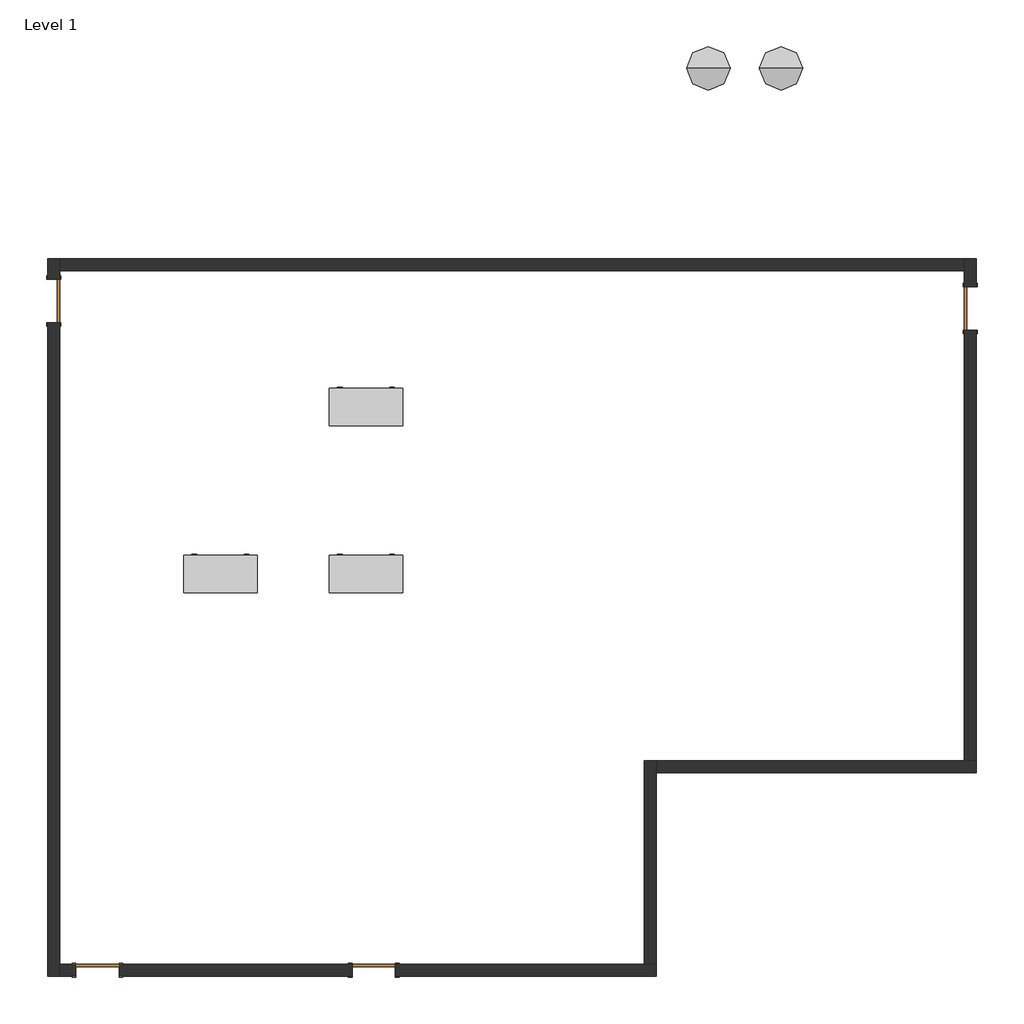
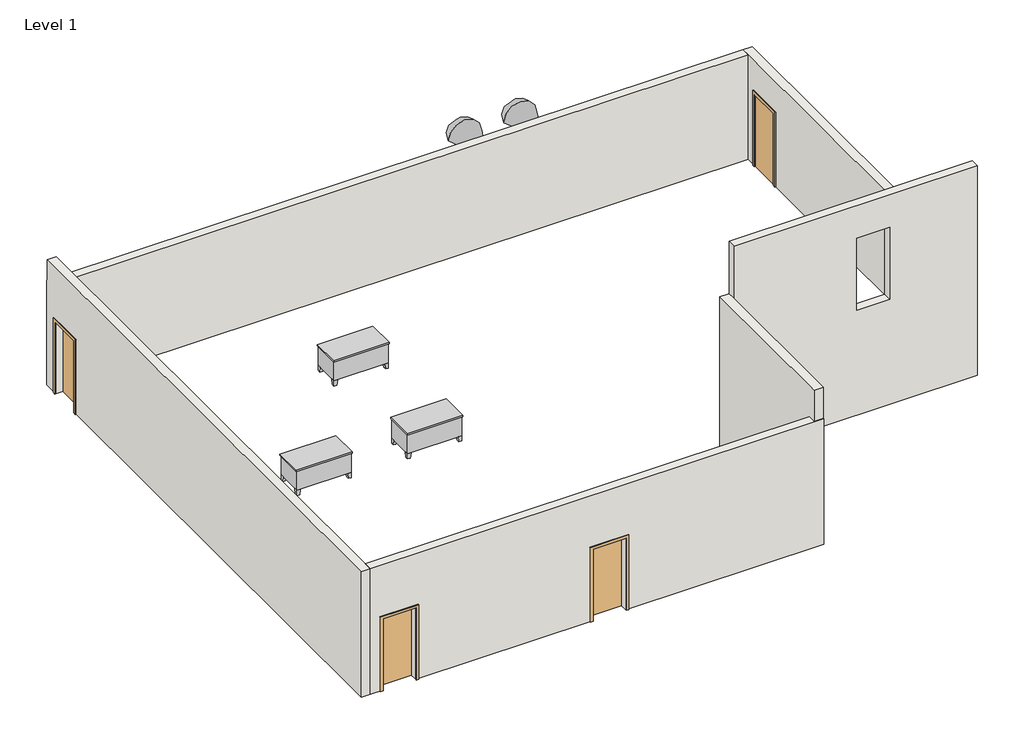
# One storey: 6 walls, 4 doors, 3 furniture elements, 2 geographic elements.
"""IFC4 building model written with IfcOpenShell, lengths in millimetres."""

from ifc_helpers import new_model, si_unit, origin, place, context, project, spatial, faceted_brep, transform, mapped, element, save
from components import single_flush_910_x_2100_9d723dec, single_flush_910_x_2100_d28cb9d3, desk_1500_x_750_4c5f3064, geographic_element_e8c3bac9

model = new_model("IFC4")

# Units and contexts
model_context = context("Model", 3, world=origin())
ifc_project = project(units=[si_unit("LENGTHUNIT", "METRE", prefix="MILLI")], contexts=[model_context])

# Site, building, storey
site = spatial("IfcSite", under=ifc_project)
building = spatial("IfcBuilding", under=site)
storey = spatial("IfcBuildingStorey", under=building, Name="Level 1", Elevation=0.0)

# Doors
placement = place(None, origin())
single_flush_910_x_2100_shape = single_flush_910_x_2100_9d723dec(model_context)
element("IfcDoor", 1, ObjectType="Single-Flush : 910 x 2100", at=placement, inside=storey, context=model_context, shape_type="MappedRepresentation", body=[
    mapped(single_flush_910_x_2100_shape, transform((-7073.9019194, -6001.280369, 0.0), x_axis=(1.0, 0.0, 0.0), y_axis=(0.0, 1.0, 0.0), z_axis=(0.0, 0.0, 1.0))),
])
element("IfcDoor", 2, ObjectType="Single-Flush : 910 x 2100", at=placement, inside=storey, context=model_context, shape_type="MappedRepresentation", body=[
    mapped(single_flush_910_x_2100_shape, transform((-13779.5019194, 8019.519631, 0.0), x_axis=(0.0, -1.0, 0.0), y_axis=(1.0, 0.0, 0.0), z_axis=(0.0, 0.0, 1.0))),
])
element("IfcDoor", 3, ObjectType="Single-Flush : 910 x 2100", at=placement, inside=storey, context=model_context, shape_type="MappedRepresentation", body=[
    mapped(single_flush_910_x_2100_shape, transform((-12865.1019194, -6001.280369, 0.0), x_axis=(1.0, 0.0, 0.0), y_axis=(0.0, 1.0, 0.0), z_axis=(0.0, 0.0, 1.0))),
])
single_flush_910_x_2100_2_shape = single_flush_910_x_2100_d28cb9d3(model_context)
element("IfcDoor", 4, ObjectType="Single-Flush : 910 x 2100", at=placement, inside=storey, context=model_context, shape_type="MappedRepresentation", body=[
    mapped(single_flush_910_x_2100_2_shape, transform((5422.8980806, 7867.119631, 0.0), x_axis=(0.0, -1.0, 0.0), y_axis=(1.0, 0.0, 0.0), z_axis=(0.0, 0.0, 1.0))),
])

# Furniture
desk_1500_x_750_shape = desk_1500_x_750_4c5f3064(model_context)
element("IfcFurniture", 5, ObjectType="Desk : 1500 x 750", at=placement, inside=storey, context=model_context, shape_type="MappedRepresentation", body=[
    mapped(desk_1500_x_750_shape, transform((-11036.3019194, 1923.519631, 0.0), x_axis=(1.0, 0.0, 0.0), y_axis=(0.0, 1.0, 0.0), z_axis=(0.0, 0.0, 1.0))),
])
element("IfcFurniture", 6, ObjectType="Desk : 1500 x 750", at=placement, inside=storey, context=model_context, shape_type="MappedRepresentation", body=[
    mapped(desk_1500_x_750_shape, transform((-7988.3019194, 5428.719631, 0.0), x_axis=(1.0, 0.0, 0.0), y_axis=(0.0, 1.0, 0.0), z_axis=(0.0, 0.0, 1.0))),
])
element("IfcFurniture", 7, ObjectType="Desk : 1500 x 750", at=placement, inside=storey, context=model_context, shape_type="MappedRepresentation", body=[
    mapped(desk_1500_x_750_shape, transform((-7988.3019194, 1923.519631, 0.0), x_axis=(1.0, 0.0, 0.0), y_axis=(0.0, 1.0, 0.0), z_axis=(0.0, 0.0, 1.0))),
])

# Geographic elements
geographic_element_shape = geographic_element_e8c3bac9(model_context)
element("IfcGeographicElement", 8, ObjectType="Shubbery : Shubbery", at=placement, inside=storey, context=model_context, shape_type="MappedRepresentation", body=[
    mapped(geographic_element_shape, transform((1460.4980806, 12896.319631, 0.0), x_axis=(1.0, 0.0, 0.0), y_axis=(0.0, 1.0, 0.0), z_axis=(0.0, 0.0, 1.0))),
])
element("IfcGeographicElement", 9, ObjectType="Shubbery : Shubbery", at=placement, inside=storey, context=model_context, shape_type="MappedRepresentation", body=[
    mapped(geographic_element_shape, transform((-63.5019194, 12896.319631, 0.0), x_axis=(1.0, 0.0, 0.0), y_axis=(0.0, 1.0, 0.0), z_axis=(0.0, 0.0, 1.0))),
])

# Walls
element("IfcWall", 10, ObjectType="Generic - 250mm", at=placement, inside=storey, context=model_context, shape_type="Brep", body=[
    faceted_brep([(-13654.5019194, -6126.280369, 0.0), (-13654.5019194, -5876.280369, 0.0), (-13654.5019194, 7564.519631, 0.0), (-13654.5019194, 7564.519631, 2100.0), (-13654.5019194, 8474.519631, 2100.0), (-13654.5019194, 8474.519631, 0.0), (-13654.5019194, 8656.519631, 0.0), (-13654.5019194, 8906.519631, 0.0), (-13654.5019194, 8906.519631, 3048.0), (-13654.5019194, 8883.119631, 3048.0), (-13654.5019194, 8883.119631, 3657.6), (-13654.5019194, -5876.280369, 3657.6), (-13654.5019194, -6126.280369, 3657.6), (-13904.5019194, 7564.519631, 2100.0), (-13904.5019194, 7564.519631, 0.0), (-13904.5019194, -6126.280369, 0.0), (-13904.5019194, -6126.280369, 3657.6), (-13904.5019194, 8883.119631, 3657.6), (-13904.5019194, 8883.119631, 3048.0), (-13904.5019194, 8906.519631, 3048.0), (-13904.5019194, 8906.519631, 0.0), (-13904.5019194, 8474.519631, 0.0), (-13904.5019194, 8474.519631, 2100.0)], [[[0, 1, 2, 3, 4, 5, 6, 7, 8, 9, 10, 11, 12]], [[13, 14, 15, 16, 17, 18, 19, 20, 21, 22]], [[21, 20, 7, 6, 5]], [[15, 14, 2, 1, 0]], [[12, 11, 10, 17, 16]], [[0, 12, 16, 15]], [[18, 9, 8, 19]], [[8, 7, 20, 19]], [[10, 9, 18, 17]], [[3, 2, 14, 13]], [[4, 3, 13, 22]], [[5, 4, 22, 21]]]),
])
element("IfcWall", 11, ObjectType="Generic - 250mm", at=placement, inside=storey, context=model_context, shape_type="Brep", body=[
    faceted_brep([(-13654.5019194, 8656.519631, 0.0), (5297.8980806, 8656.519631, 0.0), (5297.8980806, 8656.519631, 3048.0), (-13654.5019194, 8656.519631, 3048.0), (-13654.5019194, 8906.519631, 0.0), (-13654.5019194, 8906.519631, 3048.0), (5297.8980806, 8906.519631, 3048.0), (5297.8980806, 8906.519631, 0.0), (-13654.5019194, 8883.119631, 3048.0), (-13654.5019194, 8679.919631, 3048.0)], [[[0, 1, 2, 3]], [[4, 5, 6, 7]], [[1, 0, 4, 7]], [[3, 2, 6, 5, 8, 9]], [[0, 3, 9, 8, 5, 4]], [[2, 1, 7, 6]]]),
])
element("IfcWall", 12, ObjectType="Generic - 250mm", at=placement, inside=storey, context=model_context, shape_type="Brep", body=[
    faceted_brep([(-12410.1019194, -6126.280369, 2100.0), (-12410.1019194, -6126.280369, 0.0), (-7528.9019194, -6126.280369, 0.0), (-7528.9019194, -6126.280369, 2100.0), (-6618.9019194, -6126.280369, 2100.0), (-6618.9019194, -6126.280369, 0.0), (-1157.7019194, -6126.280369, 0.0), (-1157.7019194, -6126.280369, 3657.6), (-13654.5019194, -6126.280369, 3657.6), (-13654.5019194, -6126.280369, 0.0), (-13320.1019194, -6126.280369, 0.0), (-13320.1019194, -6126.280369, 2100.0), (-7528.9019194, -5876.280369, 0.0), (-12410.1019194, -5876.280369, 0.0), (-12410.1019194, -5876.280369, 2100.0), (-13320.1019194, -5876.280369, 2100.0), (-13320.1019194, -5876.280369, 0.0), (-13654.5019194, -5876.280369, 0.0), (-13654.5019194, -5876.280369, 3657.6), (-1407.7019194, -5876.280369, 3657.6), (-1157.7019194, -5876.280369, 3657.6), (-1157.7019194, -5876.280369, 0.0), (-1407.7019194, -5876.280369, 0.0), (-6618.9019194, -5876.280369, 0.0), (-6618.9019194, -5876.280369, 2100.0), (-7528.9019194, -5876.280369, 2100.0), (-1157.7019194, -6102.880369, 3657.6)], [[[0, 1, 2, 3, 4, 5, 6, 7, 8, 9, 10, 11]], [[12, 13, 14, 15, 16, 17, 18, 19, 20, 21, 22, 23, 24, 25]], [[6, 5, 23, 22, 21]], [[10, 9, 17, 16]], [[2, 1, 13, 12]], [[8, 7, 26, 20, 19, 18]], [[9, 8, 18, 17]], [[7, 6, 21, 20, 26]], [[24, 23, 5, 4]], [[25, 24, 4, 3]], [[12, 25, 3, 2]], [[14, 13, 1, 0]], [[15, 14, 0, 11]], [[16, 15, 11, 10]]]),
])
element("IfcWall", 13, ObjectType="Generic - 250mm", at=placement, inside=storey, context=model_context, shape_type="Brep", body=[
    faceted_brep([(-1157.7019194, -5876.280369, 0.0), (-1157.7019194, -1859.080369, 0.0), (-1157.7019194, -1609.080369, 0.0), (-1157.7019194, -1609.080369, 4572.0), (-1157.7019194, -6102.880369, 4572.0), (-1157.7019194, -6102.880369, 3657.6), (-1157.7019194, -5876.280369, 3657.6), (-1407.7019194, -5876.280369, 0.0), (-1407.7019194, -5876.280369, 3657.6), (-1407.7019194, -5899.680369, 3657.6), (-1407.7019194, -6102.880369, 3657.6), (-1407.7019194, -6102.880369, 4572.0), (-1407.7019194, -1609.080369, 4572.0), (-1407.7019194, -1609.080369, 0.0)], [[[0, 1, 2, 3, 4, 5, 6]], [[7, 8, 9, 10, 11, 12, 13]], [[2, 1, 0, 7, 13]], [[4, 3, 12, 11]], [[3, 2, 13, 12]], [[5, 10, 9, 8, 6]], [[0, 6, 8, 7]], [[5, 4, 11, 10]]]),
])
element("IfcWall", 14, ObjectType="Generic - 250mm", at=placement, inside=storey, context=model_context, shape_type="Brep", body=[
    faceted_brep([(-1157.7019194, -1859.080369, 0.0), (5547.8980806, -1859.080369, 0.0), (5547.8980806, -1859.080369, 6096.0), (-1157.7019194, -1859.080369, 6096.0), (2224.6980806, -1859.080369, 3048.0), (2224.6980806, -1859.080369, 5148.0), (3134.6980806, -1859.080369, 5148.0), (3134.6980806, -1859.080369, 3048.0), (-1157.7019194, -1609.080369, 0.0), (-1157.7019194, -1609.080369, 4572.0), (-1157.7019194, -1609.080369, 6096.0), (5547.8980806, -1609.080369, 6096.0), (5547.8980806, -1609.080369, 3048.0), (5547.8980806, -1609.080369, 0.0), (5297.8980806, -1609.080369, 0.0), (2224.6980806, -1609.080369, 3048.0), (3134.6980806, -1609.080369, 3048.0), (3134.6980806, -1609.080369, 5148.0), (2224.6980806, -1609.080369, 5148.0)], [[[0, 1, 2, 3], [4, 5, 6, 7]], [[8, 9, 10, 11, 12, 13, 14], [15, 16, 17, 18]], [[1, 0, 8, 14, 13]], [[3, 2, 11, 10]], [[0, 3, 10, 9, 8]], [[2, 1, 13, 12, 11]], [[16, 15, 4, 7]], [[17, 16, 7, 6]], [[18, 17, 6, 5]], [[15, 18, 5, 4]]]),
])
element("IfcWall", 15, ObjectType="Generic - 250mm", at=placement, inside=storey, context=model_context, shape_type="Brep", body=[
    faceted_brep([(5547.8980806, -1609.080369, 0.0), (5547.8980806, 7412.119631, 0.0), (5547.8980806, 7412.119631, 2100.0), (5547.8980806, 8322.119631, 2100.0), (5547.8980806, 8322.119631, 0.0), (5547.8980806, 8906.519631, 0.0), (5547.8980806, 8906.519631, 3048.0), (5547.8980806, -1609.080369, 3048.0), (5297.8980806, 7412.119631, 2100.0), (5297.8980806, 7412.119631, 0.0), (5297.8980806, -1609.080369, 0.0), (5297.8980806, -1609.080369, 3048.0), (5297.8980806, 8656.519631, 3048.0), (5297.8980806, 8906.519631, 3048.0), (5297.8980806, 8906.519631, 0.0), (5297.8980806, 8656.519631, 0.0), (5297.8980806, 8322.119631, 0.0), (5297.8980806, 8322.119631, 2100.0)], [[[0, 1, 2, 3, 4, 5, 6, 7]], [[8, 9, 10, 11, 12, 13, 14, 15, 16, 17]], [[10, 9, 1, 0]], [[16, 15, 14, 5, 4]], [[7, 6, 13, 12, 11]], [[0, 7, 11, 10]], [[6, 5, 14, 13]], [[2, 1, 9, 8]], [[3, 2, 8, 17]], [[4, 3, 17, 16]]]),
])

save(model, "model.ifc")
